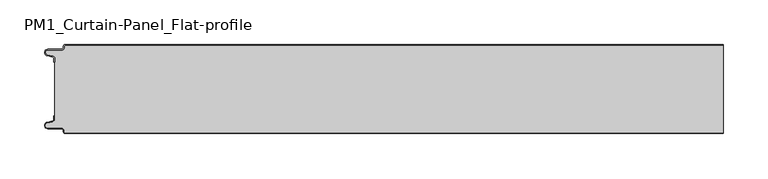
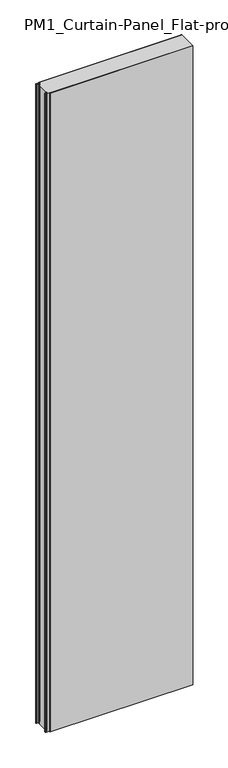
"""IFC4 building model written with IfcOpenShell, lengths in millimetres: plate geometry, PM1_Curtain-Panel_Flat-profile : ACH_PM1_Acoustic-Sectioning-Panel_100M."""

import ifcopenshell
import ifcopenshell.guid

model = None  # the IFC model being written
_history = None  # IfcOwnerHistory: only IFC2X3 demands one
_inside = {}  # id of a spatial element -> (the spatial element, [elements in it])
_under = {}  # id of a project, library or spatial element -> (it, [spatial elements below it])
_declared = {}  # id of a project -> (the project, [libraries it declares])
_typed = {}  # id of a type object -> (the type object, [elements of that type])
_made_of = {}  # id of a material, layer set ... -> (it, [elements and type objects made of it])


def new_model(schema):
    """Start an empty IFC model of exactly this schema.

    Asked for "IFC4X3", IfcOpenShell would pick the latest addendum, in which some entities
    have other attributes; the version numbers below select the first issue.
    IFC2X3 requires an IfcOwnerHistory on every rooted entity: one is made here for all.
    """
    global model, _history
    if schema == "IFC4X3":
        model = ifcopenshell.file(schema_version=(4, 3, 0, 0))
    else:
        model = ifcopenshell.file(schema=schema)
    _inside.clear()
    _under.clear()
    _declared.clear()
    _typed.clear()
    _made_of.clear()
    _history = None
    if model.schema == "IFC2X3":
        org = make("IfcOrganization", Name="unknown")
        user = make(
            "IfcPersonAndOrganization",
            ThePerson=make("IfcPerson", FamilyName="unknown"),
            TheOrganization=org,
        )
        app = make(
            "IfcApplication",
            ApplicationDeveloper=org,
            Version="unknown",
            ApplicationFullName="unknown",
            ApplicationIdentifier="unknown",
        )
        _history = make(
            "IfcOwnerHistory",
            OwningUser=user,
            OwningApplication=app,
            ChangeAction="ADDED",
            CreationDate=0,
        )
    return model


def make(cls, **values):
    """One entity of the class cls with the attributes given. An attribute that is None is left unset."""
    return model.create_entity(
        cls, **{name: value for name, value in values.items() if value is not None}
    )


def rooted(cls, **values):
    """An entity with a GlobalId (a new one), such as an element, a storey or a relation."""
    return make(cls, GlobalId=ifcopenshell.guid.new(), OwnerHistory=_history, **values)


def si_unit(unit_type, name, prefix=None):
    """IfcSIUnit, for example si_unit("LENGTHUNIT", "METRE", prefix="MILLI")."""
    return make("IfcSIUnit", UnitType=unit_type, Prefix=prefix, Name=name)


def assignment(units):
    """IfcUnitAssignment: the units of a project."""
    return None if units is None else make("IfcUnitAssignment", Units=units)


def point(xyz):
    """IfcCartesianPoint."""
    return None if xyz is None else make("IfcCartesianPoint", Coordinates=xyz)


def direction(xyz):
    """IfcDirection."""
    return None if xyz is None else make("IfcDirection", DirectionRatios=xyz)


def frame(location, z_axis=None, x_axis=None):
    """IfcAxis2Placement3D, a coordinate frame: its origin and axes. An axis left out is left unset."""
    return make(
        "IfcAxis2Placement3D",
        Location=point(location),
        Axis=direction(z_axis),
        RefDirection=direction(x_axis),
    )


def frame_2d(location, x_axis=None):
    """IfcAxis2Placement2D, a coordinate frame in the plane: its origin and x axis."""
    return make(
        "IfcAxis2Placement2D", Location=point(location), RefDirection=direction(x_axis)
    )


def origin():
    """The frame at (0, 0, 0) with its axes left unset."""
    return frame((0.0, 0.0, 0.0))


def origin_with_axes():
    """The frame at (0, 0, 0) with the z axis (0, 0, 1) and the x axis (1, 0, 0) written out."""
    return frame((0.0, 0.0, 0.0), z_axis=(0.0, 0.0, 1.0), x_axis=(1.0, 0.0, 0.0))


def place(relative_to, where):
    """IfcLocalPlacement: puts the frame where relative to a parent placement (None: the world)."""
    return make(
        "IfcLocalPlacement", PlacementRelTo=relative_to, RelativePlacement=where
    )


def context(
    kind, dimensions, precision=None, world=None, true_north=None, identifier=None
):
    """IfcGeometricRepresentationContext, for example the 3D "Model" context."""
    return make(
        "IfcGeometricRepresentationContext",
        ContextIdentifier=identifier,
        ContextType=kind,
        CoordinateSpaceDimension=dimensions,
        Precision=precision,
        WorldCoordinateSystem=world,
        TrueNorth=true_north,
    )


def project(units=None, contexts=None):
    """IfcProject with its units and contexts."""
    return rooted(
        "IfcProject",
        Name="project",
        RepresentationContexts=contexts,
        UnitsInContext=assignment(units),
    )


def spatial(cls, under=None, at=None, **own):
    """A site, building, storey or space (cls), placed at a placement, below another one or the project."""
    s = rooted(cls, ObjectPlacement=at, **own)
    if under is not None:
        _under.setdefault(under.id(), (under, []))[1].append(s)
    return s


def polyline(points):
    """IfcPolyline through the points."""
    return make("IfcPolyline", Points=[point(p) for p in points])


def circle_curve(where, radius):
    """IfcCircle in the frame where."""
    return make("IfcCircle", Position=where, Radius=radius)


def trimmed(basis, trim1, trim2, sense, master):
    """IfcTrimmedCurve: the piece of a basis curve between two trims."""
    return make(
        "IfcTrimmedCurve",
        BasisCurve=basis,
        Trim1=trim1,
        Trim2=trim2,
        SenseAgreement=sense,
        MasterRepresentation=master,
    )


def segment(curve, same_sense, transition):
    """IfcCompositeCurveSegment."""
    return make(
        "IfcCompositeCurveSegment",
        Transition=transition,
        SameSense=same_sense,
        ParentCurve=curve,
    )


def composite_curve(segments, self_intersect=None):
    """IfcCompositeCurve: segments joined end to end."""
    return make("IfcCompositeCurve", Segments=segments, SelfIntersect=self_intersect)


def outline(outer, holes=None, kind="AREA"):
    """IfcArbitraryClosedProfileDef: a profile drawn as a closed curve; with holes, ...WithVoids."""
    if holes is None:
        return make("IfcArbitraryClosedProfileDef", ProfileType=kind, OuterCurve=outer)
    return make(
        "IfcArbitraryProfileDefWithVoids",
        ProfileType=kind,
        OuterCurve=outer,
        InnerCurves=holes,
    )


def extrude(swept, where, along, depth):
    """IfcExtrudedAreaSolid: the profile swept, set in the frame where, extruded along a direction by depth."""
    return make(
        "IfcExtrudedAreaSolid",
        SweptArea=swept,
        Position=where,
        ExtrudedDirection=direction(along),
        Depth=depth,
    )


def shape(context_of_items, identifier, shape_type, items):
    """IfcShapeRepresentation: the items that make up one representation, for example the "Body"."""
    return make(
        "IfcShapeRepresentation",
        ContextOfItems=context_of_items,
        RepresentationIdentifier=identifier,
        RepresentationType=shape_type,
        Items=items,
    )


def source(mapping_origin, context_of_items, identifier, shape_type, items):
    """IfcRepresentationMap: a shape defined once, which mapped items show again and again."""
    return make(
        "IfcRepresentationMap",
        MappingOrigin=mapping_origin,
        MappedRepresentation=shape(context_of_items, identifier, shape_type, items),
    )


def transform(
    local_origin,
    x_axis=None,
    y_axis=None,
    z_axis=None,
    scale=None,
    scale2=None,
    scale3=None,
    uniform=True,
):
    """IfcCartesianTransformationOperator3D, or its non-uniform kind. x_axis, y_axis, z_axis: its Axis1, 2, 3."""
    if uniform:
        return make(
            "IfcCartesianTransformationOperator3D",
            Axis1=direction(x_axis),
            Axis2=direction(y_axis),
            LocalOrigin=point(local_origin),
            Scale=scale,
            Axis3=direction(z_axis),
        )
    return make(
        "IfcCartesianTransformationOperator3DnonUniform",
        Axis1=direction(x_axis),
        Axis2=direction(y_axis),
        LocalOrigin=point(local_origin),
        Scale=scale,
        Axis3=direction(z_axis),
        Scale2=scale2,
        Scale3=scale3,
    )


def mapped(mapping_source, mapping_target):
    """IfcMappedItem: shows the shape of a source again, moved by a transform."""
    return make(
        "IfcMappedItem", MappingSource=mapping_source, MappingTarget=mapping_target
    )


def made_of(thing, what):
    """Note that an element or type object is made of a material, layer set ...; save() writes the relation."""
    if what is not None:
        _made_of.setdefault(what.id(), (what, []))[1].append(thing)
    return thing


def element(
    cls,
    number,
    at=None,
    inside=None,
    cuts=None,
    type_object=None,
    material=None,
    context=None,
    identifier="Body",
    shape_type=None,
    held_by="IfcProductDefinitionShape",
    body=None,
    shapes=None,
    **own,
):
    """One element of the class cls, such as IfcWall. Its Tag is "e" and its number.

    at: its placement. inside: the storey or other place that contains it. cuts: it is an
    opening in that element (IfcRelVoidsElement). A single representation is given by context,
    identifier, shape_type and body (its items); several are given by shapes. held_by: the class
    of the entity that holds the representations. save() writes the other relations.
    """
    e = rooted(cls, Tag="e%d" % number, ObjectPlacement=at, **own)
    if body is not None:
        shapes = [shape(context, identifier, shape_type, body)]
    if shapes is not None:
        e.Representation = make(held_by, Representations=shapes)
    if inside is not None:
        _inside.setdefault(inside.id(), (inside, []))[1].append(e)
    if cuts is not None:
        rooted(
            "IfcRelVoidsElement", RelatingBuildingElement=cuts, RelatedOpeningElement=e
        )
    if type_object is not None:
        _typed.setdefault(type_object.id(), (type_object, []))[1].append(e)
    return made_of(e, material)


def aggregate(whole, parts):
    """IfcRelAggregates: a whole, such as a stair, and the parts it consists of."""
    return rooted("IfcRelAggregates", RelatingObject=whole, RelatedObjects=parts)


def save(model, path):
    """Write the relations noted so far, then the file.

    IfcRelAggregates (storeys below a building ...), IfcRelContainedInSpatialStructure (elements
    in a storey), IfcRelDefinesByType, IfcRelAssociatesMaterial and IfcRelDeclares: one each for
    every whole, place, type object, material and project.
    """
    for whole, parts in _under.values():
        aggregate(whole, parts)
    for where, things in _inside.values():
        rooted(
            "IfcRelContainedInSpatialStructure",
            RelatedElements=things,
            RelatingStructure=where,
        )
    for kind, things in _typed.values():
        rooted("IfcRelDefinesByType", RelatedObjects=things, RelatingType=kind)
    for what, things in _made_of.values():
        rooted("IfcRelAssociatesMaterial", RelatedObjects=things, RelatingMaterial=what)
    for by, libraries in _declared.values():
        rooted("IfcRelDeclares", RelatingContext=by, RelatedDefinitions=libraries)
    model.write(path)


def pm1_curtain_panel_flat_profile_2dd77cdb(model_context):
    return source(origin(), model_context, "Body", "SweptSolid", [
        extrude(outline(composite_curve([segment(trimmed(circle_curve(frame_2d((-362.4, -2.0)), 1.2), [point((-362.4, -0.8))], [point((-363.6, -2.0))], True, "CARTESIAN"), True, "CONTINUOUS"), segment(polyline([(-363.6, -2.0), (-363.6, -3.4)]), True, "CONTINUOUS"), segment(trimmed(circle_curve(frame_2d((-366.4, -3.4)), 2.8), [point((-363.6, -3.4))], [point((-366.4, -6.2))], False, "CARTESIAN"), True, "CONTINUOUS"), segment(polyline([(-366.4, -6.2), (-381.9, -6.2)]), True, "CONTINUOUS"), segment(trimmed(circle_curve(frame_2d((-381.9, -9.0)), 2.8), [point((-381.9, -6.2))], [point((-382.529863, -11.7282362))], True, "CARTESIAN"), True, "CONTINUOUS"), segment(polyline([(-382.529863, -11.7282362), (-376.370137, -13.150321)]), True, "CONTINUOUS"), segment(trimmed(circle_curve(frame_2d((-377.0, -15.878557)), 2.8), [point((-376.370137, -13.150321))], [point((-374.2, -15.878557))], False, "CARTESIAN"), True, "CONTINUOUS"), segment(polyline([(-374.2, -15.878557), (-374.2, -20.0), (-375.0, -20.0), (-375.0, -15.878557)]), True, "CONTINUOUS"), segment(trimmed(circle_curve(frame_2d((-377.0, -15.878557)), 2.0), [point((-375.0, -15.878557))], [point((-376.5500978, -13.9298169))], True, "CARTESIAN"), True, "CONTINUOUS"), segment(polyline([(-376.5500978, -13.9298169), (-382.7098239, -12.507732)]), True, "CONTINUOUS"), segment(trimmed(circle_curve(frame_2d((-381.9, -9.0)), 3.6), [point((-382.7098239, -12.507732))], [point((-381.9, -5.4))], False, "CARTESIAN"), True, "CONTINUOUS"), segment(polyline([(-381.9, -5.4), (-366.4, -5.4)]), True, "CONTINUOUS"), segment(trimmed(circle_curve(frame_2d((-366.4, -3.4)), 2.0), [point((-366.4, -5.4))], [point((-364.4, -3.4))], True, "CARTESIAN"), True, "CONTINUOUS"), segment(polyline([(-364.4, -3.4), (-364.4, -2.0)]), True, "CONTINUOUS"), segment(trimmed(circle_curve(frame_2d((-362.4, -2.0)), 2.0), [point((-364.4, -2.0))], [point((-362.4, 0.0))], False, "CARTESIAN"), True, "CONTINUOUS"), segment(polyline([(-362.4, 0.0), (375.0, 0.0), (375.0, -0.8), (-362.4, -0.8)]), True, "CONTINUOUS")], self_intersect=False)), origin_with_axes(), (0.0, 0.0, 1.0), 3500.0),
        extrude(outline(composite_curve([segment(polyline([(-374.2, -84.1214426), (-374.2, -15.8785573)]), True, "CONTINUOUS"), segment(trimmed(circle_curve(frame_2d((-377.0, -15.8785573)), 2.8), [point((-374.2, -15.8785573))], [point((-376.370137, -13.1503212))], True, "CARTESIAN"), True, "CONTINUOUS"), segment(polyline([(-376.370137, -13.1503212), (-382.5298631, -11.7282362)]), True, "CONTINUOUS"), segment(trimmed(circle_curve(frame_2d((-381.9, -9.0)), 2.8), [point((-382.5298631, -11.7282362))], [point((-381.9, -6.2))], False, "CARTESIAN"), True, "CONTINUOUS"), segment(polyline([(-381.9, -6.2), (-366.4000001, -6.2)]), True, "CONTINUOUS"), segment(trimmed(circle_curve(frame_2d((-366.4000001, -3.4)), 2.8), [point((-366.4000001, -6.2))], [point((-363.6000001, -3.4))], True, "CARTESIAN"), True, "CONTINUOUS"), segment(polyline([(-363.6000001, -3.4), (-363.6000001, -2.0)]), True, "CONTINUOUS"), segment(trimmed(circle_curve(frame_2d((-362.4000001, -2.0)), 1.2), [point((-363.6000001, -2.0))], [point((-362.4000001, -0.8))], False, "CARTESIAN"), True, "CONTINUOUS"), segment(polyline([(-362.4000001, -0.8), (375.0, -0.8), (375.0, -99.2), (-362.4000001, -99.2)]), True, "CONTINUOUS"), segment(trimmed(circle_curve(frame_2d((-362.4000001, -98.0)), 1.2), [point((-362.4000001, -99.2))], [point((-363.6000001, -98.0))], False, "CARTESIAN"), True, "CONTINUOUS"), segment(polyline([(-363.6000001, -98.0), (-363.6000001, -96.6)]), True, "CONTINUOUS"), segment(trimmed(circle_curve(frame_2d((-366.4000001, -96.6)), 2.8), [point((-363.6000001, -96.6))], [point((-366.4000001, -93.8))], True, "CARTESIAN"), True, "CONTINUOUS"), segment(polyline([(-366.4000001, -93.8), (-381.9, -93.8)]), True, "CONTINUOUS"), segment(trimmed(circle_curve(frame_2d((-381.9, -91.0)), 2.8), [point((-381.9, -93.8))], [point((-382.5298631, -88.2717638))], False, "CARTESIAN"), True, "CONTINUOUS"), segment(polyline([(-382.5298631, -88.2717638), (-376.370137, -86.8496788)]), True, "CONTINUOUS"), segment(trimmed(circle_curve(frame_2d((-377.0, -84.1214426)), 2.8), [point((-376.370137, -86.8496788))], [point((-374.2, -84.1214426))], True, "CARTESIAN"), True, "CONTINUOUS")], self_intersect=False)), origin_with_axes(), (0.0, 0.0, 1.0), 3500.0),
        extrude(outline(composite_curve([segment(trimmed(circle_curve(frame_2d((-362.4, -98.0)), 2.0), [point((-362.4, -100.0))], [point((-364.4, -98.0))], False, "CARTESIAN"), True, "CONTINUOUS"), segment(polyline([(-364.4, -98.0), (-364.4, -96.6)]), True, "CONTINUOUS"), segment(trimmed(circle_curve(frame_2d((-366.4, -96.6)), 2.0), [point((-364.4, -96.6))], [point((-366.4, -94.6))], True, "CARTESIAN"), True, "CONTINUOUS"), segment(polyline([(-366.4, -94.6), (-381.9, -94.6)]), True, "CONTINUOUS"), segment(trimmed(circle_curve(frame_2d((-381.9, -91.0)), 3.6), [point((-381.9, -94.6))], [point((-382.7098239, -87.4922678))], False, "CARTESIAN"), True, "CONTINUOUS"), segment(polyline([(-382.7098239, -87.4922678), (-376.5500979, -86.070183)]), True, "CONTINUOUS"), segment(trimmed(circle_curve(frame_2d((-377.0, -84.121443)), 2.0), [point((-376.5500979, -86.070183))], [point((-375.0, -84.121443))], True, "CARTESIAN"), True, "CONTINUOUS"), segment(polyline([(-375.0, -84.121443), (-375.0, -80.0), (-374.2, -80.0), (-374.2, -84.121443)]), True, "CONTINUOUS"), segment(trimmed(circle_curve(frame_2d((-377.0, -84.121443)), 2.8), [point((-374.2, -84.121443))], [point((-376.370137, -86.8496792))], False, "CARTESIAN"), True, "CONTINUOUS"), segment(polyline([(-376.370137, -86.8496792), (-382.529863, -88.271764)]), True, "CONTINUOUS"), segment(trimmed(circle_curve(frame_2d((-381.9, -91.0)), 2.8), [point((-382.529863, -88.271764))], [point((-381.9, -93.8))], True, "CARTESIAN"), True, "CONTINUOUS"), segment(polyline([(-381.9, -93.8), (-366.4, -93.8)]), True, "CONTINUOUS"), segment(trimmed(circle_curve(frame_2d((-366.4, -96.6)), 2.8), [point((-366.4, -93.8))], [point((-363.6, -96.6))], False, "CARTESIAN"), True, "CONTINUOUS"), segment(polyline([(-363.6, -96.6), (-363.6, -98.0)]), True, "CONTINUOUS"), segment(trimmed(circle_curve(frame_2d((-362.4, -98.0)), 1.2), [point((-363.6, -98.0))], [point((-362.4, -99.2))], True, "CARTESIAN"), True, "CONTINUOUS"), segment(polyline([(-362.4, -99.2), (375.0, -99.2), (375.0, -100.0), (-362.4, -100.0)]), True, "CONTINUOUS")], self_intersect=False)), origin_with_axes(), (0.0, 0.0, 1.0), 3500.0),
    ])


if __name__ == "__main__":
    model = new_model("IFC4")
    model_context = context("Model", 3, world=origin())
    ifc_project = project(units=[si_unit("LENGTHUNIT", "METRE", prefix="MILLI")], contexts=[model_context])
    site = spatial("IfcSite", under=ifc_project)
    building = spatial("IfcBuilding", under=site)
    placement = place(None, origin())
    pm1_curtain_panel_flat_profile_shape = pm1_curtain_panel_flat_profile_2dd77cdb(model_context)
    element("IfcPlate", 1, ObjectType="PM1_Curtain-Panel_Flat-profile : ACH_PM1_Acoustic-Sectioning-Panel_100M", at=placement, inside=building, context=model_context, shape_type="MappedRepresentation", body=[
        mapped(pm1_curtain_panel_flat_profile_shape, transform((0.0, 0.0, 0.0), x_axis=(1.0, 0.0, 0.0), y_axis=(0.0, 1.0, 0.0), z_axis=(0.0, 0.0, 1.0))),
    ])
    save(model, "model.ifc")
